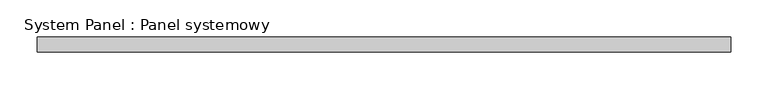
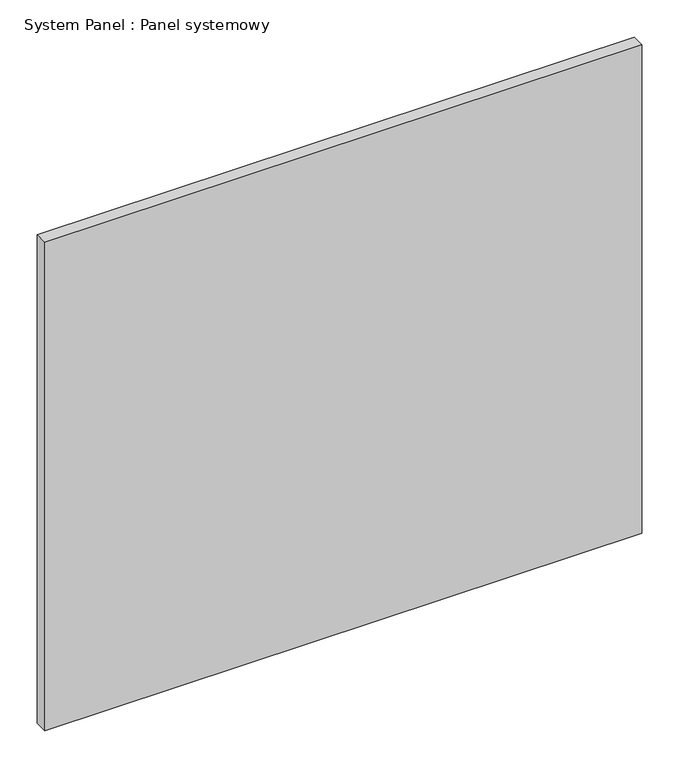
"""IFC4 building model written with IfcOpenShell, lengths in millimetres: plate geometry, System Panel : Panel systemowy."""

import ifcopenshell
import ifcopenshell.guid

model = None  # the IFC model being written
_history = None  # IfcOwnerHistory: only IFC2X3 demands one
_inside = {}  # id of a spatial element -> (the spatial element, [elements in it])
_under = {}  # id of a project, library or spatial element -> (it, [spatial elements below it])
_declared = {}  # id of a project -> (the project, [libraries it declares])
_typed = {}  # id of a type object -> (the type object, [elements of that type])
_made_of = {}  # id of a material, layer set ... -> (it, [elements and type objects made of it])


def new_model(schema):
    """Start an empty IFC model of exactly this schema.

    Asked for "IFC4X3", IfcOpenShell would pick the latest addendum, in which some entities
    have other attributes; the version numbers below select the first issue.
    IFC2X3 requires an IfcOwnerHistory on every rooted entity: one is made here for all.
    """
    global model, _history
    if schema == "IFC4X3":
        model = ifcopenshell.file(schema_version=(4, 3, 0, 0))
    else:
        model = ifcopenshell.file(schema=schema)
    _inside.clear()
    _under.clear()
    _declared.clear()
    _typed.clear()
    _made_of.clear()
    _history = None
    if model.schema == "IFC2X3":
        org = make("IfcOrganization", Name="unknown")
        user = make(
            "IfcPersonAndOrganization",
            ThePerson=make("IfcPerson", FamilyName="unknown"),
            TheOrganization=org,
        )
        app = make(
            "IfcApplication",
            ApplicationDeveloper=org,
            Version="unknown",
            ApplicationFullName="unknown",
            ApplicationIdentifier="unknown",
        )
        _history = make(
            "IfcOwnerHistory",
            OwningUser=user,
            OwningApplication=app,
            ChangeAction="ADDED",
            CreationDate=0,
        )
    return model


def make(cls, **values):
    """One entity of the class cls with the attributes given. An attribute that is None is left unset."""
    return model.create_entity(
        cls, **{name: value for name, value in values.items() if value is not None}
    )


def rooted(cls, **values):
    """An entity with a GlobalId (a new one), such as an element, a storey or a relation."""
    return make(cls, GlobalId=ifcopenshell.guid.new(), OwnerHistory=_history, **values)


def si_unit(unit_type, name, prefix=None):
    """IfcSIUnit, for example si_unit("LENGTHUNIT", "METRE", prefix="MILLI")."""
    return make("IfcSIUnit", UnitType=unit_type, Prefix=prefix, Name=name)


def assignment(units):
    """IfcUnitAssignment: the units of a project."""
    return None if units is None else make("IfcUnitAssignment", Units=units)


def point(xyz):
    """IfcCartesianPoint."""
    return None if xyz is None else make("IfcCartesianPoint", Coordinates=xyz)


def direction(xyz):
    """IfcDirection."""
    return None if xyz is None else make("IfcDirection", DirectionRatios=xyz)


def frame(location, z_axis=None, x_axis=None):
    """IfcAxis2Placement3D, a coordinate frame: its origin and axes. An axis left out is left unset."""
    return make(
        "IfcAxis2Placement3D",
        Location=point(location),
        Axis=direction(z_axis),
        RefDirection=direction(x_axis),
    )


def origin():
    """The frame at (0, 0, 0) with its axes left unset."""
    return frame((0.0, 0.0, 0.0))


def origin_with_axes():
    """The frame at (0, 0, 0) with the z axis (0, 0, 1) and the x axis (1, 0, 0) written out."""
    return frame((0.0, 0.0, 0.0), z_axis=(0.0, 0.0, 1.0), x_axis=(1.0, 0.0, 0.0))


def place(relative_to, where):
    """IfcLocalPlacement: puts the frame where relative to a parent placement (None: the world)."""
    return make(
        "IfcLocalPlacement", PlacementRelTo=relative_to, RelativePlacement=where
    )


def context(
    kind, dimensions, precision=None, world=None, true_north=None, identifier=None
):
    """IfcGeometricRepresentationContext, for example the 3D "Model" context."""
    return make(
        "IfcGeometricRepresentationContext",
        ContextIdentifier=identifier,
        ContextType=kind,
        CoordinateSpaceDimension=dimensions,
        Precision=precision,
        WorldCoordinateSystem=world,
        TrueNorth=true_north,
    )


def project(units=None, contexts=None):
    """IfcProject with its units and contexts."""
    return rooted(
        "IfcProject",
        Name="project",
        RepresentationContexts=contexts,
        UnitsInContext=assignment(units),
    )


def spatial(cls, under=None, at=None, **own):
    """A site, building, storey or space (cls), placed at a placement, below another one or the project."""
    s = rooted(cls, ObjectPlacement=at, **own)
    if under is not None:
        _under.setdefault(under.id(), (under, []))[1].append(s)
    return s


def polyline(points):
    """IfcPolyline through the points."""
    return make("IfcPolyline", Points=[point(p) for p in points])


def outline(outer, holes=None, kind="AREA"):
    """IfcArbitraryClosedProfileDef: a profile drawn as a closed curve; with holes, ...WithVoids."""
    if holes is None:
        return make("IfcArbitraryClosedProfileDef", ProfileType=kind, OuterCurve=outer)
    return make(
        "IfcArbitraryProfileDefWithVoids",
        ProfileType=kind,
        OuterCurve=outer,
        InnerCurves=holes,
    )


def extrude(swept, where, along, depth):
    """IfcExtrudedAreaSolid: the profile swept, set in the frame where, extruded along a direction by depth."""
    return make(
        "IfcExtrudedAreaSolid",
        SweptArea=swept,
        Position=where,
        ExtrudedDirection=direction(along),
        Depth=depth,
    )


def shape(context_of_items, identifier, shape_type, items):
    """IfcShapeRepresentation: the items that make up one representation, for example the "Body"."""
    return make(
        "IfcShapeRepresentation",
        ContextOfItems=context_of_items,
        RepresentationIdentifier=identifier,
        RepresentationType=shape_type,
        Items=items,
    )


def source(mapping_origin, context_of_items, identifier, shape_type, items):
    """IfcRepresentationMap: a shape defined once, which mapped items show again and again."""
    return make(
        "IfcRepresentationMap",
        MappingOrigin=mapping_origin,
        MappedRepresentation=shape(context_of_items, identifier, shape_type, items),
    )


def transform(
    local_origin,
    x_axis=None,
    y_axis=None,
    z_axis=None,
    scale=None,
    scale2=None,
    scale3=None,
    uniform=True,
):
    """IfcCartesianTransformationOperator3D, or its non-uniform kind. x_axis, y_axis, z_axis: its Axis1, 2, 3."""
    if uniform:
        return make(
            "IfcCartesianTransformationOperator3D",
            Axis1=direction(x_axis),
            Axis2=direction(y_axis),
            LocalOrigin=point(local_origin),
            Scale=scale,
            Axis3=direction(z_axis),
        )
    return make(
        "IfcCartesianTransformationOperator3DnonUniform",
        Axis1=direction(x_axis),
        Axis2=direction(y_axis),
        LocalOrigin=point(local_origin),
        Scale=scale,
        Axis3=direction(z_axis),
        Scale2=scale2,
        Scale3=scale3,
    )


def mapped(mapping_source, mapping_target):
    """IfcMappedItem: shows the shape of a source again, moved by a transform."""
    return make(
        "IfcMappedItem", MappingSource=mapping_source, MappingTarget=mapping_target
    )


def made_of(thing, what):
    """Note that an element or type object is made of a material, layer set ...; save() writes the relation."""
    if what is not None:
        _made_of.setdefault(what.id(), (what, []))[1].append(thing)
    return thing


def element(
    cls,
    number,
    at=None,
    inside=None,
    cuts=None,
    type_object=None,
    material=None,
    context=None,
    identifier="Body",
    shape_type=None,
    held_by="IfcProductDefinitionShape",
    body=None,
    shapes=None,
    **own,
):
    """One element of the class cls, such as IfcWall. Its Tag is "e" and its number.

    at: its placement. inside: the storey or other place that contains it. cuts: it is an
    opening in that element (IfcRelVoidsElement). A single representation is given by context,
    identifier, shape_type and body (its items); several are given by shapes. held_by: the class
    of the entity that holds the representations. save() writes the other relations.
    """
    e = rooted(cls, Tag="e%d" % number, ObjectPlacement=at, **own)
    if body is not None:
        shapes = [shape(context, identifier, shape_type, body)]
    if shapes is not None:
        e.Representation = make(held_by, Representations=shapes)
    if inside is not None:
        _inside.setdefault(inside.id(), (inside, []))[1].append(e)
    if cuts is not None:
        rooted(
            "IfcRelVoidsElement", RelatingBuildingElement=cuts, RelatedOpeningElement=e
        )
    if type_object is not None:
        _typed.setdefault(type_object.id(), (type_object, []))[1].append(e)
    return made_of(e, material)


def aggregate(whole, parts):
    """IfcRelAggregates: a whole, such as a stair, and the parts it consists of."""
    return rooted("IfcRelAggregates", RelatingObject=whole, RelatedObjects=parts)


def save(model, path):
    """Write the relations noted so far, then the file.

    IfcRelAggregates (storeys below a building ...), IfcRelContainedInSpatialStructure (elements
    in a storey), IfcRelDefinesByType, IfcRelAssociatesMaterial and IfcRelDeclares: one each for
    every whole, place, type object, material and project.
    """
    for whole, parts in _under.values():
        aggregate(whole, parts)
    for where, things in _inside.values():
        rooted(
            "IfcRelContainedInSpatialStructure",
            RelatedElements=things,
            RelatingStructure=where,
        )
    for kind, things in _typed.values():
        rooted("IfcRelDefinesByType", RelatedObjects=things, RelatingType=kind)
    for what, things in _made_of.values():
        rooted("IfcRelAssociatesMaterial", RelatedObjects=things, RelatingMaterial=what)
    for by, libraries in _declared.values():
        rooted("IfcRelDeclares", RelatingContext=by, RelatedDefinitions=libraries)
    model.write(path)


def system_panel_panel_systemowy_af181b55(model_context):
    return source(origin(), model_context, "Body", "SweptSolid", [
        extrude(outline(polyline([(462.5, -10.0), (-462.5, -10.0), (-462.5, 10.0), (462.5, 10.0), (462.5, -10.0)])), origin_with_axes(), (0.0, 0.0, 1.0), 800.0),
    ])


if __name__ == "__main__":
    model = new_model("IFC4")
    model_context = context("Model", 3, world=origin())
    ifc_project = project(units=[si_unit("LENGTHUNIT", "METRE", prefix="MILLI")], contexts=[model_context])
    site = spatial("IfcSite", under=ifc_project)
    building = spatial("IfcBuilding", under=site)
    placement = place(None, origin())
    system_panel_panel_systemowy_shape = system_panel_panel_systemowy_af181b55(model_context)
    element("IfcPlate", 1, ObjectType="System Panel : Panel systemowy", at=placement, inside=building, context=model_context, shape_type="MappedRepresentation", body=[
        mapped(system_panel_panel_systemowy_shape, transform((0.0, 0.0, 0.0), x_axis=(1.0, 0.0, 0.0), y_axis=(0.0, 1.0, 0.0), z_axis=(0.0, 0.0, 1.0))),
    ])
    save(model, "model.ifc")
